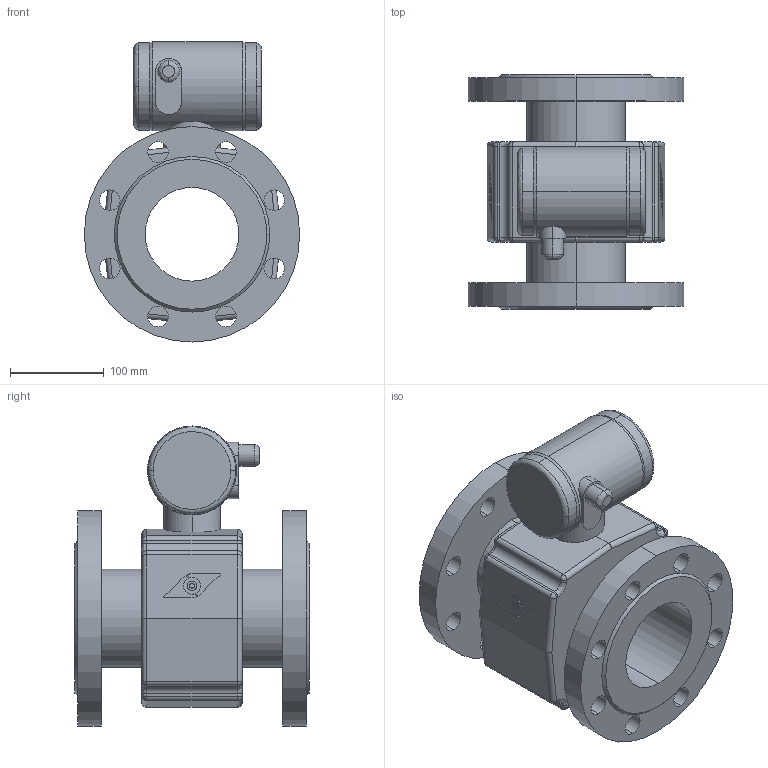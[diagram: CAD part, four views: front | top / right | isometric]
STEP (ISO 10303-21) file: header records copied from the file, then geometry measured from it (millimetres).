
FILE_DESCRIPTION (( 'STEP AP203' ), '1' );
FILE_NAME ('PC100.STEP', '2015-11-06T12:48:06', ( '' ), ( '' ), 'SwSTEP 2.0', 'SolidWorks 2015', '' );
FILE_SCHEMA (( 'CONFIG_CONTROL_DESIGN' ));
Length unit declared in the file: millimetre
Products named in the file (2): PC100
Bounding box: 230 x 250 x 320.3 mm (x, y, z)
Volume: 5257603.6 mm3; surface area: 462948.3 mm2
Topology: 1 solids, 1 shells, 216 faces, 507 edges, 310 vertices
Faces by surface type: cylinder 115, plane 55, bspline 36, cone 10
Entity records: 7273 total; most frequent: CARTESIAN_POINT 2191, DIRECTION 1042, ORIENTED_EDGE 1014, EDGE_CURVE 507, AXIS2_PLACEMENT_3D 405, VERTEX_POINT 310, EDGE_LOOP 267, VECTOR 232
